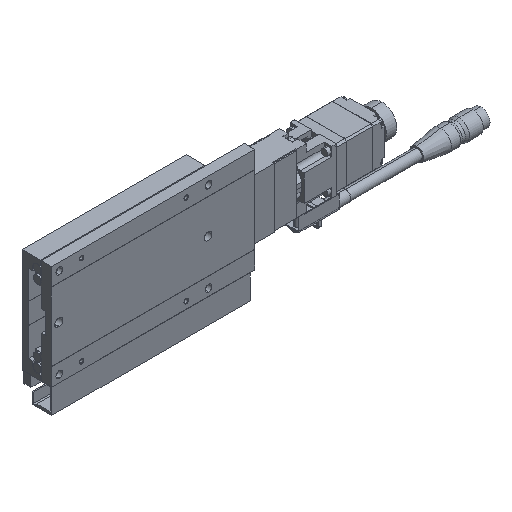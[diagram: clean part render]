
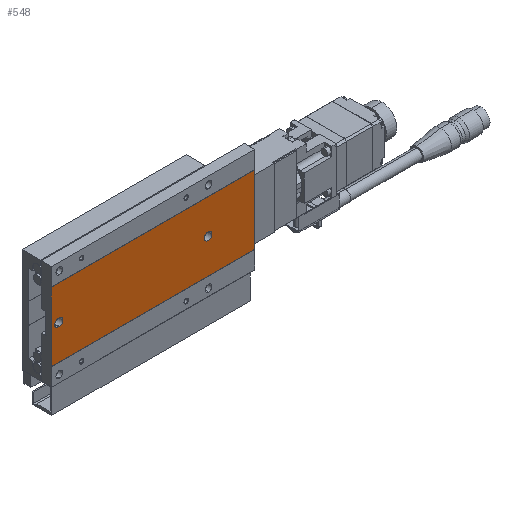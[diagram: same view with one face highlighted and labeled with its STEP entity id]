
A CAD part, isometric view. The second image highlights one B-rep face of the part: STEP entity #548.
In plain terms, the highlighted planar face has unit normal (0, -1, 0).
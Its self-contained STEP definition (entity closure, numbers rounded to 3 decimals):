
#548=ADVANCED_FACE('',(#1553,#1554,#1555),#1556,.F.);
#1553=FACE_BOUND('',#3158,.T.);
#1554=FACE_OUTER_BOUND('',#3159,.T.);
#1555=FACE_BOUND('',#3160,.T.);
#1556=PLANE('',#3161);
#3158=EDGE_LOOP('',(#6143,#6144,#6145,#6146));
#3159=EDGE_LOOP('',(#6147,#6148,#6149,#6150));
#3160=EDGE_LOOP('',(#6151,#6152,#6153));
#3161=AXIS2_PLACEMENT_3D('',#6154,#6155,#6156);
#6143=ORIENTED_EDGE('',*,*,#10886,.F.);
#6144=ORIENTED_EDGE('',*,*,#10887,.F.);
#6145=ORIENTED_EDGE('',*,*,#10888,.F.);
#6146=ORIENTED_EDGE('',*,*,#10889,.F.);
#6147=ORIENTED_EDGE('',*,*,#10871,.T.);
#6148=ORIENTED_EDGE('',*,*,#10890,.F.);
#6149=ORIENTED_EDGE('',*,*,#10891,.F.);
#6150=ORIENTED_EDGE('',*,*,#10892,.T.);
#6151=ORIENTED_EDGE('',*,*,#10771,.F.);
#6152=ORIENTED_EDGE('',*,*,#10770,.F.);
#6153=ORIENTED_EDGE('',*,*,#10893,.F.);
#6154=CARTESIAN_POINT('',(81.0,0.3,23.1));
#6155=DIRECTION('',(0.0,1.0,0.));
#6156=DIRECTION('',(1.0,0.0,0.0));
#10770=EDGE_CURVE('',#12964,#12966,#12967,.F.);
#10771=EDGE_CURVE('',#12966,#12960,#12968,.F.);
#10871=EDGE_CURVE('',#13155,#13153,#13156,.T.);
#10886=EDGE_CURVE('',#13183,#13184,#13185,.F.);
#10887=EDGE_CURVE('',#13186,#13183,#13187,.T.);
#10888=EDGE_CURVE('',#13188,#13186,#13189,.F.);
#10889=EDGE_CURVE('',#13184,#13188,#13190,.T.);
#10890=EDGE_CURVE('',#13191,#13153,#13192,.T.);
#10891=EDGE_CURVE('',#13193,#13191,#13194,.T.);
#10892=EDGE_CURVE('',#13193,#13155,#13195,.T.);
#10893=EDGE_CURVE('',#12960,#12964,#13196,.F.);
#12960=VERTEX_POINT('',#16385);
#12964=VERTEX_POINT('',#16390);
#12966=VERTEX_POINT('',#16393);
#12967=CIRCLE('',#16394,2.5);
#12968=CIRCLE('',#16395,2.5);
#13153=VERTEX_POINT('',#16636);
#13155=VERTEX_POINT('',#16639);
#13156=LINE('',#16640,#16641);
#13183=VERTEX_POINT('',#16681);
#13184=VERTEX_POINT('',#16682);
#13185=CIRCLE('',#16683,2.5);
#13186=VERTEX_POINT('',#16684);
#13187=LINE('',#16685,#16686);
#13188=VERTEX_POINT('',#16687);
#13189=CIRCLE('',#16688,2.5);
#13190=LINE('',#16689,#16690);
#13191=VERTEX_POINT('',#16691);
#13192=LINE('',#16692,#16693);
#13193=VERTEX_POINT('',#16694);
#13194=LINE('',#16695,#16696);
#13195=LINE('',#16697,#16698);
#13196=CIRCLE('',#16699,2.5);
#16385=CARTESIAN_POINT('',(47.5,0.3,0.));
#16390=CARTESIAN_POINT('',(52.5,0.3,0.));
#16393=CARTESIAN_POINT('',(50.0,0.3,2.5));
#16394=AXIS2_PLACEMENT_3D('',#20412,#20413,#20414);
#16395=AXIS2_PLACEMENT_3D('',#20415,#20416,#20417);
#16636=CARTESIAN_POINT('',(-55.0,0.3,-23.1));
#16639=CARTESIAN_POINT('',(-55.0,0.3,23.1));
#16640=CARTESIAN_POINT('',(-55.0,0.3,23.1));
#16641=VECTOR('',#20601,1000.0);
#16681=CARTESIAN_POINT('',(-50.25,0.3,2.5));
#16682=CARTESIAN_POINT('',(-50.25,0.3,-2.5));
#16683=AXIS2_PLACEMENT_3D('',#20618,#20619,#20620);
#16684=CARTESIAN_POINT('',(-49.75,0.3,2.5));
#16685=CARTESIAN_POINT('',(81.0,0.3,2.5));
#16686=VECTOR('',#20621,1000.0);
#16687=CARTESIAN_POINT('',(-49.75,0.3,-2.5));
#16688=AXIS2_PLACEMENT_3D('',#20622,#20623,#20624);
#16689=CARTESIAN_POINT('',(81.0,0.3,-2.5));
#16690=VECTOR('',#20625,1000.0);
#16691=CARTESIAN_POINT('',(81.0,0.3,-23.1));
#16692=CARTESIAN_POINT('',(81.0,0.3,-23.1));
#16693=VECTOR('',#20626,1000.0);
#16694=CARTESIAN_POINT('',(81.0,0.3,23.1));
#16695=CARTESIAN_POINT('',(81.0,0.3,23.1));
#16696=VECTOR('',#20627,1000.0);
#16697=CARTESIAN_POINT('',(81.0,0.3,23.1));
#16698=VECTOR('',#20628,1000.0);
#16699=AXIS2_PLACEMENT_3D('',#20629,#20630,#20631);
#20412=CARTESIAN_POINT('',(50.0,0.3,0.0));
#20413=DIRECTION('',(0.0,1.0,0.));
#20414=DIRECTION('',(0.0,0.,1.0));
#20415=CARTESIAN_POINT('',(50.0,0.3,0.0));
#20416=DIRECTION('',(0.0,1.0,0.));
#20417=DIRECTION('',(0.0,0.,1.0));
#20601=DIRECTION('',(0.0,0.,-1.0));
#20618=CARTESIAN_POINT('',(-50.25,0.3,0.));
#20619=DIRECTION('',(0.0,1.0,0.));
#20620=DIRECTION('',(0.0,0.,1.0));
#20621=DIRECTION('',(-1.0,0.0,0.0));
#20622=CARTESIAN_POINT('',(-49.75,0.3,0.));
#20623=DIRECTION('',(0.0,1.0,0.));
#20624=DIRECTION('',(0.0,0.,1.0));
#20625=DIRECTION('',(1.0,0.0,0.0));
#20626=DIRECTION('',(-1.0,0.0,0.0));
#20627=DIRECTION('',(0.0,0.,-1.0));
#20628=DIRECTION('',(-1.0,0.0,0.0));
#20629=CARTESIAN_POINT('',(50.0,0.3,0.0));
#20630=DIRECTION('',(0.0,1.0,0.));
#20631=DIRECTION('',(0.0,0.,1.0));
